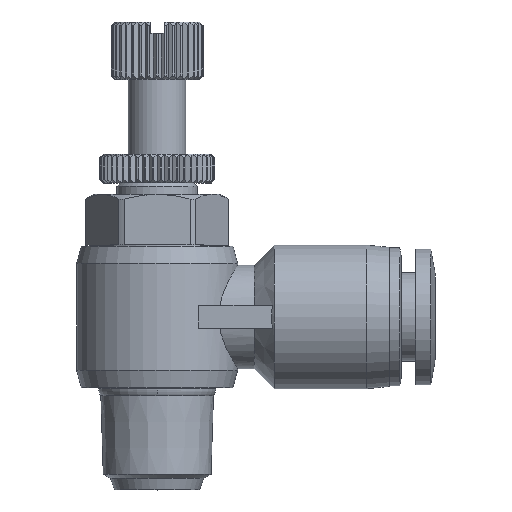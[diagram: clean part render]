
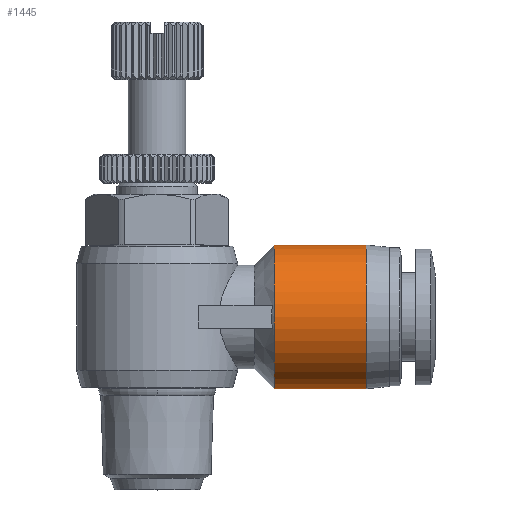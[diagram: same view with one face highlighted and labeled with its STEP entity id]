
A CAD part, top view. The second image highlights one B-rep face of the part: STEP entity #1445.
In plain terms, the highlighted cylindrical face has radius 6.25 mm (diameter 12.5 mm), a partial arc.
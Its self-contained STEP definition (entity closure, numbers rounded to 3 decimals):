
#462 = VERTEX_POINT ( 'NONE', #9495 ) ;
#659 = VERTEX_POINT ( 'NONE', #3627 ) ;
#1040 = LINE ( 'NONE', #4302, #1974 ) ;
#1182 = AXIS2_PLACEMENT_3D ( 'NONE', #2242, #5458, #3262 ) ;
#1202 = ORIENTED_EDGE ( 'NONE', *, *, #9660, .F. ) ;
#1445 = ADVANCED_FACE ( 'NONE', ( #13086 ), #4804, .T. ) ;
#1899 = AXIS2_PLACEMENT_3D ( 'NONE', #4613, #8778, #3576 ) ;
#1974 = VECTOR ( 'NONE', #3263, 1000. ) ;
#2242 = CARTESIAN_POINT ( 'NONE',  ( 10.2, 15.05, 0. ) ) ;
#3046 = ORIENTED_EDGE ( 'NONE', *, *, #9395, .F. ) ;
#3262 = DIRECTION ( 'NONE',  ( 0., -1., 0. ) ) ;
#3263 = DIRECTION ( 'NONE',  ( -1., 0., 0. ) ) ;
#3576 = DIRECTION ( 'NONE',  ( 0., -1., 0. ) ) ;
#3627 = CARTESIAN_POINT ( 'NONE',  ( 18.2, 8.8, 0. ) ) ;
#4193 = ORIENTED_EDGE ( 'NONE', *, *, #4965, .T. ) ;
#4302 = CARTESIAN_POINT ( 'NONE',  ( 14.2, 21.3, 0. ) ) ;
#4452 = VERTEX_POINT ( 'NONE', #11055 ) ;
#4613 = CARTESIAN_POINT ( 'NONE',  ( 18.2, 15.05, 0. ) ) ;
#4659 = DIRECTION ( 'NONE',  ( -1., 0., 0. ) ) ;
#4795 = CARTESIAN_POINT ( 'NONE',  ( 14.2, 8.8, 0. ) ) ;
#4804 = CYLINDRICAL_SURFACE ( 'NONE', #5482, 6.25 ) ;
#4965 = EDGE_CURVE ( 'NONE', #462, #9948, #1040, .T. ) ;
#5458 = DIRECTION ( 'NONE',  ( -1., 0., 0. ) ) ;
#5482 = AXIS2_PLACEMENT_3D ( 'NONE', #11161, #5851, #12188 ) ;
#5851 = DIRECTION ( 'NONE',  ( -1., 0., 0. ) ) ;
#7049 = LINE ( 'NONE', #4795, #7977 ) ;
#7320 = ORIENTED_EDGE ( 'NONE', *, *, #12423, .T. ) ;
#7780 = CIRCLE ( 'NONE', #1899, 6.25 ) ;
#7977 = VECTOR ( 'NONE', #4659, 1000. ) ;
#8307 = CARTESIAN_POINT ( 'NONE',  ( 10.2, 21.3, 0. ) ) ;
#8778 = DIRECTION ( 'NONE',  ( -1., 0., 0. ) ) ;
#9395 = EDGE_CURVE ( 'NONE', #659, #4452, #7049, .T. ) ;
#9495 = CARTESIAN_POINT ( 'NONE',  ( 18.2, 21.3, 0. ) ) ;
#9660 = EDGE_CURVE ( 'NONE', #4452, #9948, #11869, .T. ) ;
#9948 = VERTEX_POINT ( 'NONE', #8307 ) ;
#11055 = CARTESIAN_POINT ( 'NONE',  ( 10.2, 8.8, 0. ) ) ;
#11161 = CARTESIAN_POINT ( 'NONE',  ( 14.2, 15.05, 0. ) ) ;
#11869 = CIRCLE ( 'NONE', #1182, 6.25 ) ;
#12188 = DIRECTION ( 'NONE',  ( 0., -1., 0. ) ) ;
#12423 = EDGE_CURVE ( 'NONE', #659, #462, #7780, .T. ) ;
#12629 = EDGE_LOOP ( 'NONE', ( #7320, #4193, #1202, #3046 ) ) ;
#13086 = FACE_OUTER_BOUND ( 'NONE', #12629, .T. ) ;
